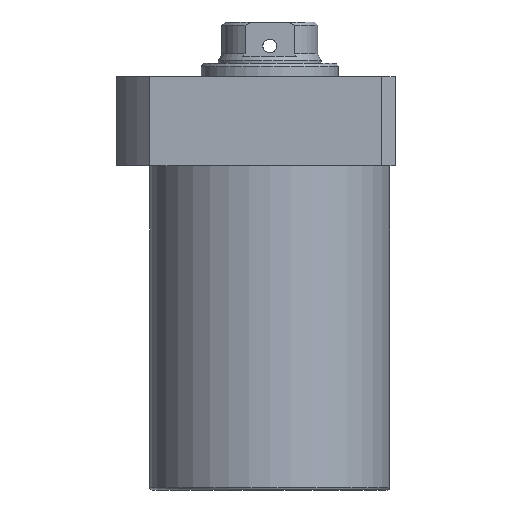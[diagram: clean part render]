
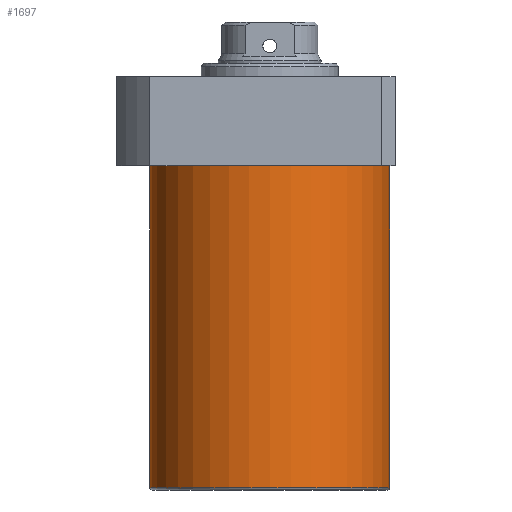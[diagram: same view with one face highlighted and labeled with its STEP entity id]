
A CAD part, front view. The second image highlights one B-rep face of the part: STEP entity #1697.
In plain terms, the highlighted cylindrical face has radius 52.5 mm (diameter 105 mm), a partial arc.
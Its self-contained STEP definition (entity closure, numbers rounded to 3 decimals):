
#56 = VERTEX_POINT ( 'NONE', #1641 ) ;
#230 = CARTESIAN_POINT ( 'NONE',  ( 0., 0., -19.5 ) ) ;
#238 = ORIENTED_EDGE ( 'NONE', *, *, #1492, .T. ) ;
#247 = CARTESIAN_POINT ( 'NONE',  ( -52.5, 0., -160.5 ) ) ;
#262 = DIRECTION ( 'NONE',  ( 0., 0., 1. ) ) ;
#296 = ORIENTED_EDGE ( 'NONE', *, *, #1590, .F. ) ;
#302 = VECTOR ( 'NONE', #1676, 1000. ) ;
#347 = DIRECTION ( 'NONE',  ( 1., 0., 0. ) ) ;
#511 = CARTESIAN_POINT ( 'NONE',  ( 52.5, 0., -161.5 ) ) ;
#545 = DIRECTION ( 'NONE',  ( 0., 0., 1. ) ) ;
#618 = AXIS2_PLACEMENT_3D ( 'NONE', #659, #848, #347 ) ;
#641 = LINE ( 'NONE', #2203, #302 ) ;
#650 = AXIS2_PLACEMENT_3D ( 'NONE', #1803, #262, #1633 ) ;
#651 = CARTESIAN_POINT ( 'NONE',  ( -52.5, 0., -19.5 ) ) ;
#659 = CARTESIAN_POINT ( 'NONE',  ( 0., 0., -161.5 ) ) ;
#848 = DIRECTION ( 'NONE',  ( 0., 0., 1. ) ) ;
#932 = AXIS2_PLACEMENT_3D ( 'NONE', #230, #2099, #2121 ) ;
#956 = CARTESIAN_POINT ( 'NONE',  ( 52.5, 0., -160.5 ) ) ;
#998 = CIRCLE ( 'NONE', #932, 52.5 ) ;
#1089 = ORIENTED_EDGE ( 'NONE', *, *, #1434, .T. ) ;
#1415 = VERTEX_POINT ( 'NONE', #651 ) ;
#1434 = EDGE_CURVE ( 'NONE', #56, #1415, #998, .T. ) ;
#1467 = VERTEX_POINT ( 'NONE', #247 ) ;
#1492 = EDGE_CURVE ( 'NONE', #1467, #1503, #2209, .T. ) ;
#1503 = VERTEX_POINT ( 'NONE', #956 ) ;
#1521 = FACE_OUTER_BOUND ( 'NONE', #1690, .T. ) ;
#1590 = EDGE_CURVE ( 'NONE', #1467, #1415, #641, .T. ) ;
#1633 = DIRECTION ( 'NONE',  ( -1., 0., 0. ) ) ;
#1641 = CARTESIAN_POINT ( 'NONE',  ( 52.5, 0., -19.5 ) ) ;
#1676 = DIRECTION ( 'NONE',  ( 0., 0., 1. ) ) ;
#1690 = EDGE_LOOP ( 'NONE', ( #296, #238, #2018, #1089 ) ) ;
#1697 = ADVANCED_FACE ( 'NONE', ( #1521 ), #1703, .T. ) ;
#1703 = CYLINDRICAL_SURFACE ( 'NONE', #618, 52.5 ) ;
#1803 = CARTESIAN_POINT ( 'NONE',  ( 0., 0., -160.5 ) ) ;
#1810 = EDGE_CURVE ( 'NONE', #1503, #56, #1993, .T. ) ;
#1993 = LINE ( 'NONE', #511, #2045 ) ;
#2018 = ORIENTED_EDGE ( 'NONE', *, *, #1810, .T. ) ;
#2045 = VECTOR ( 'NONE', #545, 1000. ) ;
#2099 = DIRECTION ( 'NONE',  ( 0., 0., -1. ) ) ;
#2121 = DIRECTION ( 'NONE',  ( 1., 0., 0. ) ) ;
#2203 = CARTESIAN_POINT ( 'NONE',  ( -52.5, 0., -161.5 ) ) ;
#2209 = CIRCLE ( 'NONE', #650, 52.5 ) ;
